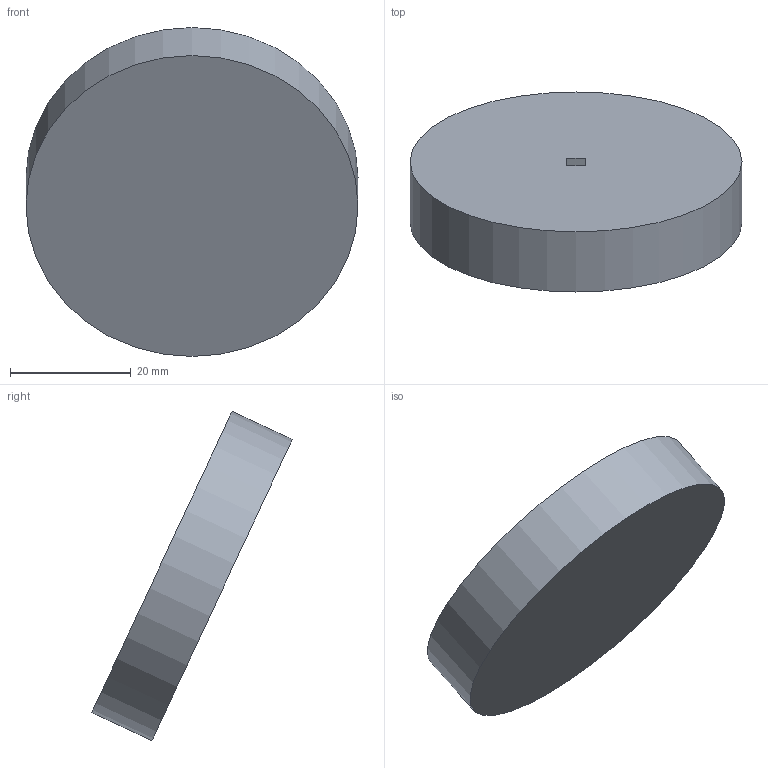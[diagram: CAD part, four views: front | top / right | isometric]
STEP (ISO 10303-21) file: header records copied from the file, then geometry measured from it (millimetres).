
FILE_DESCRIPTION(/* description */ ('STEP AP242 Edition 2','CAx-IF Rec.Pracs.---Representation and Presentation of Product Manufacturing Information (PMI)---4.0---2014-10-13','CAx-IF Rec.Pracs.---3D Tessellated Geometry---0.4---2014-09-14','2;1','CAx-IF Rec.Pracs.---User Defined Attributes---1.5---2016-08-15'),/* implementation_level */ '2;1');
FILE_NAME(/* name */ 'main - turnwheel',/* time_stamp */ '2026-11-08T20:03:45Z',/* author */ (''),/* organization */ (''),/* preprocessor_version */ 'ST-DEVELOPER v20',/* originating_system */ 'ONSHAPE BY PTC INC, 1.223',/* authorisation */ ' ');
FILE_SCHEMA (('AP242_MANAGED_MODEL_BASED_3D_ENGINEERING_MIM_LF { 1 0 10303 442 3 1 4 }'));
Length unit declared in the file: metre
Products named in the file (1): turnwheel
Bounding box: 55 x 33.21 x 54.5 mm (x, y, z)
Volume: 26044.1 mm3; surface area: 6772.3 mm2
Topology: 1 solids, 1 shells, 8 faces, 15 edges, 10 vertices
Faces by surface type: plane 7, cylinder 1
Full cylindrical faces by diameter (mm): 55 x1
Entity records: 218 total; most frequent: DIRECTION 34, CARTESIAN_POINT 33, ORIENTED_EDGE 28, EDGE_CURVE 14, LINE 12, VECTOR 12, AXIS2_PLACEMENT_3D 11, VERTEX_POINT 10
